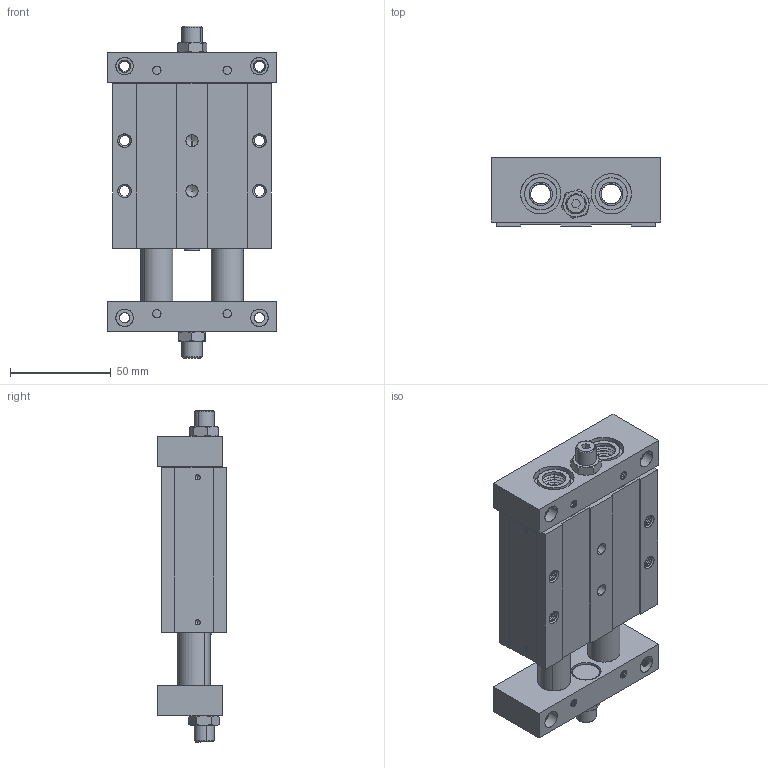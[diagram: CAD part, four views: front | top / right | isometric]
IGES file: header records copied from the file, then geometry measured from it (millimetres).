
Start section: SolidWorks IGES file using analytic representation for surfaces
Global section: file name: c:\CATALO3D\IGS\PS25.0025.IGS; native system: SolidWorks 2005 by SolidWorks Corporation; preprocessor: SolidWorks 2005 by SolidWorks Corporation; author: tania; date: 051006.090137; units: millimetre
Bounding box: 84 x 34 x 165 mm (x, y, z)
Surface area: 91376.9 mm2 (no closed solid volume)
Topology: 0 solids, 0 shells, 1398 faces, 11739 edges, 11725 vertices
Faces by surface type: revolution 1172, bspline 226
